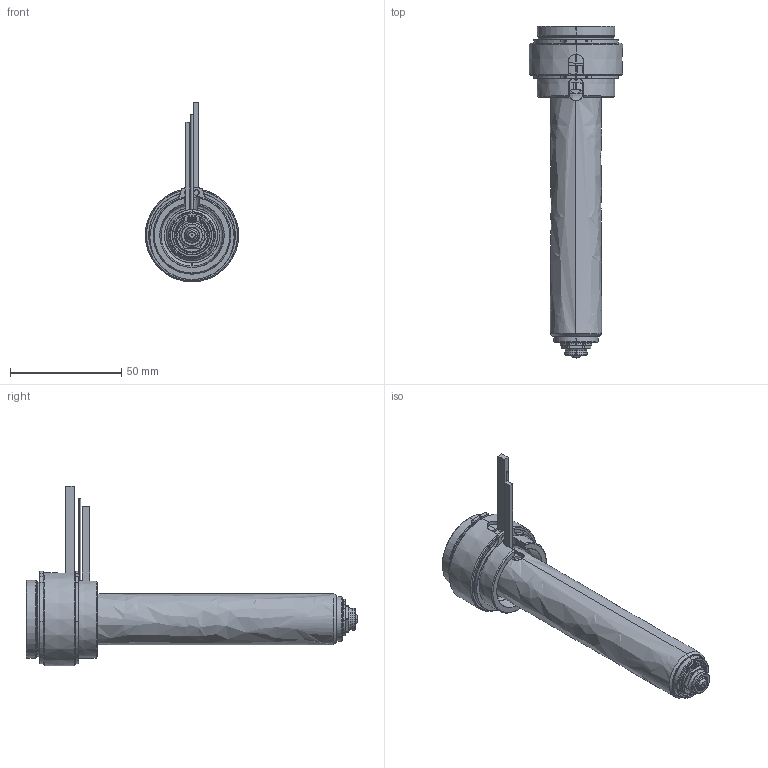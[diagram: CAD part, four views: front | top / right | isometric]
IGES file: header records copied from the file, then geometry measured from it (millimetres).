
Start section: SolidWorks IGES file using analytic representation for surfaces
Global section: file name: C:\Documents and Settings\ws-20\Desktop\TEM\UGER3553-S-A-0 [Øb-0.70  ØC-6.0].IGS; native system: SolidWorks 2012; preprocessor: SolidWorks 2012; author: ws-20; date: 120410.094935; units: millimetre
Bounding box: 42 x 149.4 x 80.9 mm (x, y, z)
Surface area: 44798 mm2 (no closed solid volume)
Topology: 0 solids, 0 shells, 207 faces, 3634 edges, 3634 vertices
Faces by surface type: revolution 131, bspline 76
